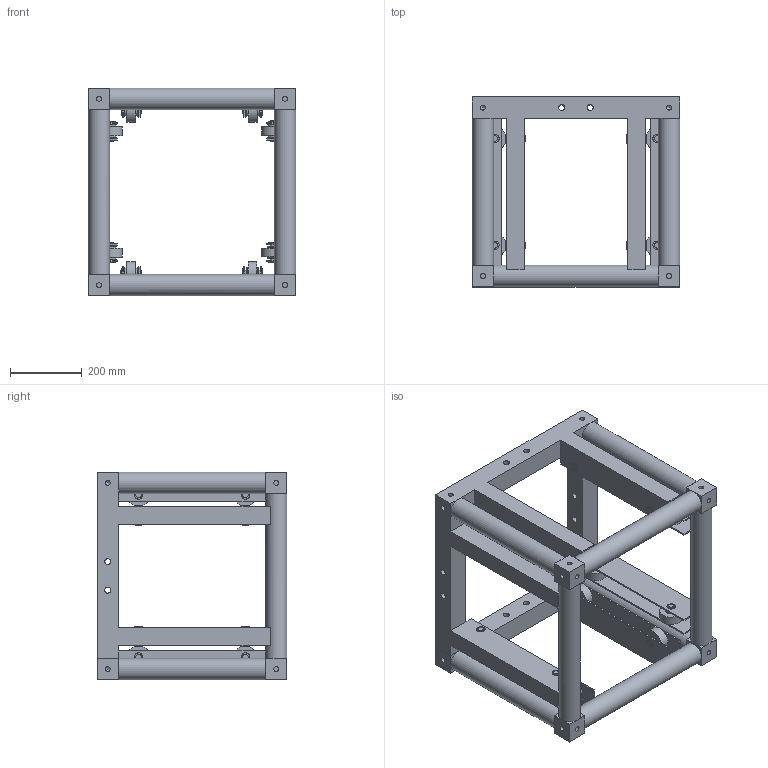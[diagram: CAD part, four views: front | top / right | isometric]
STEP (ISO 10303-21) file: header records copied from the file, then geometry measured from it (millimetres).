
FILE_DESCRIPTION(/* description */ (''),/* implementation_level */ '2;1');
FILE_NAME(/* name */ 'M:\Symbolen_NIEUW\STP\Sleeveblocks\111820018.stp',/* time_stamp */ '2015-06-01T16:17:57+02:00',/* author */ ('Stephan'),/* organization */ (''),/* preprocessor_version */ 'ST-DEVELOPER v15.6',/* originating_system */ 'Autodesk Inventor 2015',/* authorisation */ '');
FILE_SCHEMA (('AUTOMOTIVE_DESIGN { 1 0 10303 214 3 1 1 }'));
Length unit declared in the file: millimetre
Products named in the file (1): 160024350
Bounding box: 580 x 530 x 580.02 mm (x, y, z)
Volume: 22026005.8 mm3; surface area: 2930711.2 mm2
Topology: 1 solids, 1 shells, 693 faces, 1540 edges, 1010 vertices
Faces by surface type: plane 405, cylinder 280, cone 8
Full cylindrical faces by diameter (mm): 13.835 x48, 16 x96, 17 x8, 20.75 x8, 23.691 x32, 30 x32, 34.5 x32, 60 x8, 65 x16
Entity records: 17914 total; most frequent: DIRECTION 3196, CARTESIAN_POINT 2710, ORIENTED_EDGE 2258, AXIS2_PLACEMENT_3D 1373, EDGE_LOOP 1264, EDGE_CURVE 1129, VERTEX_POINT 887, STYLED_ITEM 694
